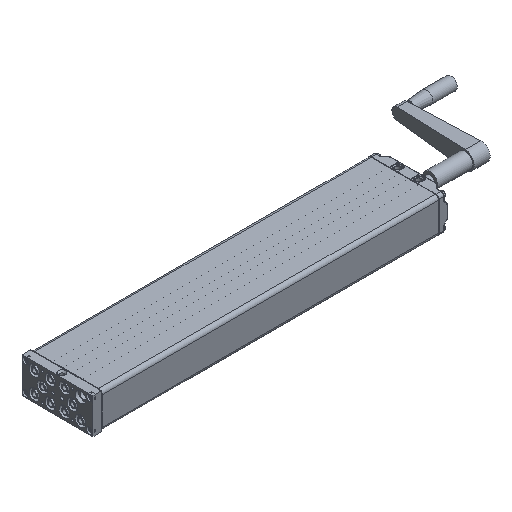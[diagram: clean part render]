
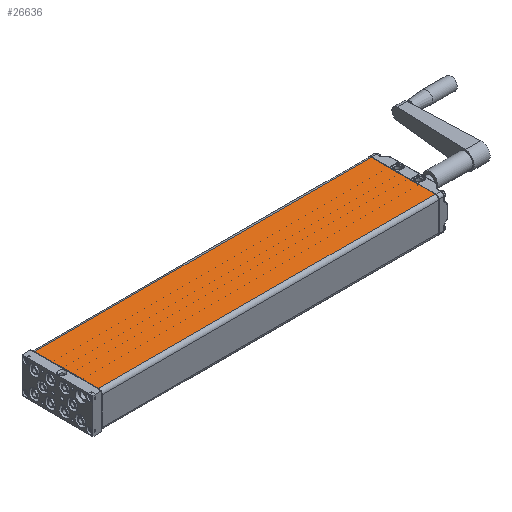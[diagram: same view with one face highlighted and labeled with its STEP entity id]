
A CAD part, isometric view. The second image highlights one B-rep face of the part: STEP entity #26636.
In plain terms, the highlighted planar face has unit normal (0, 0, 1).
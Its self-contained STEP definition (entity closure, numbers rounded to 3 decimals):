
#2501=LINE('',#63548,#3568);
#2502=LINE('',#63551,#3569);
#2503=LINE('',#63553,#3570);
#2504=LINE('',#63555,#3571);
#3568=VECTOR('',#32898,1000.);
#3569=VECTOR('',#32899,1000.);
#3570=VECTOR('',#32900,1000.);
#3571=VECTOR('',#32901,1000.);
#4002=PLANE('',#28464);
#8866=ORIENTED_EDGE('',*,*,#11916,.T.);
#8867=ORIENTED_EDGE('',*,*,#11917,.T.);
#8868=ORIENTED_EDGE('',*,*,#11918,.T.);
#8869=ORIENTED_EDGE('',*,*,#11919,.T.);
#11916=EDGE_CURVE('',#13701,#13702,#2501,.F.);
#11917=EDGE_CURVE('',#13702,#13703,#2502,.T.);
#11918=EDGE_CURVE('',#13703,#13704,#2503,.T.);
#11919=EDGE_CURVE('',#13704,#13701,#2504,.F.);
#13701=VERTEX_POINT('',#63549);
#13702=VERTEX_POINT('',#63550);
#13703=VERTEX_POINT('',#63552);
#13704=VERTEX_POINT('',#63554);
#15925=EDGE_LOOP('',(#8866,#8867,#8868,#8869));
#17466=FACE_BOUND('',#15925,.T.);
#26636=ADVANCED_FACE('',(#17466),#4002,.T.);
#28464=AXIS2_PLACEMENT_3D('',#63547,#32896,#32897);
#32896=DIRECTION('',(0.,0.,1.));
#32897=DIRECTION('',(1.,0.,0.));
#32898=DIRECTION('',(0.,-1.,0.));
#32899=DIRECTION('',(-1.,0.,0.));
#32900=DIRECTION('',(0.,-1.,0.));
#32901=DIRECTION('',(-1.,0.,0.));
#63547=CARTESIAN_POINT('',(60.,570.5,30.));
#63548=CARTESIAN_POINT('',(54.,570.5,30.));
#63549=CARTESIAN_POINT('',(54.,0.5,30.));
#63550=CARTESIAN_POINT('',(54.,570.,30.));
#63551=CARTESIAN_POINT('',(60.,570.,30.));
#63552=CARTESIAN_POINT('',(-54.,570.,30.));
#63553=CARTESIAN_POINT('',(-54.,570.5,30.));
#63554=CARTESIAN_POINT('',(-54.,0.5,30.));
#63555=CARTESIAN_POINT('',(54.,0.5,30.));
